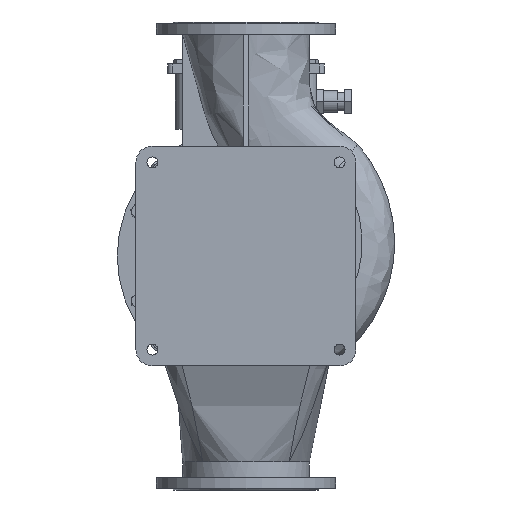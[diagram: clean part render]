
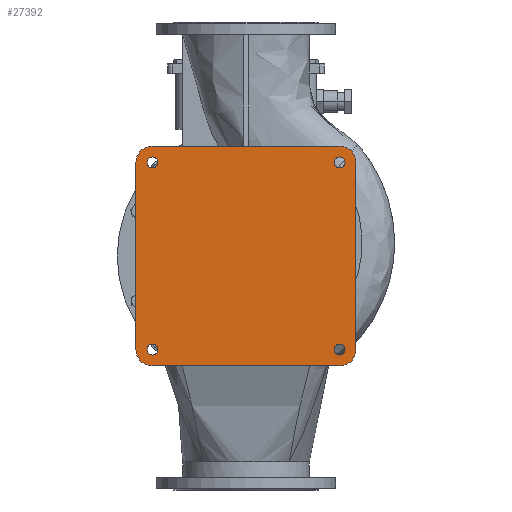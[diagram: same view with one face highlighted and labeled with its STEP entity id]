
A CAD part, front view. The second image highlights one B-rep face of the part: STEP entity #27392.
In plain terms, the highlighted planar face has unit normal (0, -1, 0).
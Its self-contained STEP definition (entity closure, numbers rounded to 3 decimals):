
#164 = CARTESIAN_POINT ( 'NONE',  ( -240., -290., 240. ) ) ;
#239 = VERTEX_POINT ( 'NONE', #65137 ) ;
#346 = VERTEX_POINT ( 'NONE', #22522 ) ;
#1585 = DIRECTION ( 'NONE',  ( 0., 0., -1. ) ) ;
#2315 = AXIS2_PLACEMENT_3D ( 'NONE', #14080, #33299, #20868 ) ;
#3403 = EDGE_CURVE ( 'NONE', #75440, #29275, #74496, .T. ) ;
#4117 = CARTESIAN_POINT ( 'NONE',  ( 240., -290., -240. ) ) ;
#4573 = CIRCLE ( 'NONE', #65923, 42. ) ;
#5020 = CIRCLE ( 'NONE', #75326, 14. ) ;
#6245 = LINE ( 'NONE', #73870, #29101 ) ;
#6494 = CARTESIAN_POINT ( 'NONE',  ( -282., -290., -240. ) ) ;
#6815 = DIRECTION ( 'NONE',  ( 0., 1., 0. ) ) ;
#8536 = FACE_BOUND ( 'NONE', #75142, .T. ) ;
#8956 = FACE_BOUND ( 'NONE', #70918, .T. ) ;
#8978 = ORIENTED_EDGE ( 'NONE', *, *, #43783, .T. ) ;
#9484 = VERTEX_POINT ( 'NONE', #74684 ) ;
#11029 = DIRECTION ( 'NONE',  ( 0., 0., 1. ) ) ;
#11075 = ORIENTED_EDGE ( 'NONE', *, *, #53578, .F. ) ;
#12382 = VECTOR ( 'NONE', #19296, 1000. ) ;
#12728 = VERTEX_POINT ( 'NONE', #48634 ) ;
#13116 = ORIENTED_EDGE ( 'NONE', *, *, #67044, .F. ) ;
#13320 = ORIENTED_EDGE ( 'NONE', *, *, #3403, .T. ) ;
#14080 = CARTESIAN_POINT ( 'NONE',  ( 240., -290., 240. ) ) ;
#14305 = ORIENTED_EDGE ( 'NONE', *, *, #23916, .T. ) ;
#14555 = DIRECTION ( 'NONE',  ( 0., 0., -1. ) ) ;
#15030 = CIRCLE ( 'NONE', #63572, 14. ) ;
#15519 = CARTESIAN_POINT ( 'NONE',  ( 282., -290., -240. ) ) ;
#16122 = DIRECTION ( 'NONE',  ( 0., 0., 1. ) ) ;
#16730 = VERTEX_POINT ( 'NONE', #46580 ) ;
#17420 = EDGE_CURVE ( 'NONE', #63994, #12728, #54484, .T. ) ;
#17826 = DIRECTION ( 'NONE',  ( 0., 0., 1. ) ) ;
#19222 = CARTESIAN_POINT ( 'NONE',  ( -282., -290., 240. ) ) ;
#19296 = DIRECTION ( 'NONE',  ( 0., 0., 1. ) ) ;
#19440 = ORIENTED_EDGE ( 'NONE', *, *, #67090, .T. ) ;
#20174 = PLANE ( 'NONE',  #62284 ) ;
#20485 = LINE ( 'NONE', #6494, #12382 ) ;
#20634 = DIRECTION ( 'NONE',  ( 0., 0., 1. ) ) ;
#20868 = DIRECTION ( 'NONE',  ( 0., 0., 1. ) ) ;
#21570 = CARTESIAN_POINT ( 'NONE',  ( -240., -290., -240. ) ) ;
#21916 = VERTEX_POINT ( 'NONE', #59098 ) ;
#22107 = EDGE_CURVE ( 'NONE', #12728, #38989, #6245, .T. ) ;
#22389 = DIRECTION ( 'NONE',  ( 0., 0., -1. ) ) ;
#22522 = CARTESIAN_POINT ( 'NONE',  ( -240., -290., 282. ) ) ;
#22847 = AXIS2_PLACEMENT_3D ( 'NONE', #164, #54607, #79027 ) ;
#23916 = EDGE_CURVE ( 'NONE', #239, #67680, #73638, .T. ) ;
#24368 = VERTEX_POINT ( 'NONE', #56104 ) ;
#25626 = DIRECTION ( 'NONE',  ( 0., 1., 0. ) ) ;
#26138 = AXIS2_PLACEMENT_3D ( 'NONE', #54478, #6815, #36876 ) ;
#26174 = FACE_BOUND ( 'NONE', #75925, .T. ) ;
#26640 = CARTESIAN_POINT ( 'NONE',  ( -240., -290., -240. ) ) ;
#26658 = CIRCLE ( 'NONE', #22847, 42. ) ;
#26974 = CARTESIAN_POINT ( 'NONE',  ( -240., -290., 226. ) ) ;
#27392 = ADVANCED_FACE ( 'NONE', ( #26174, #8956, #8536, #38592, #32195 ), #20174, .T. ) ;
#27691 = EDGE_CURVE ( 'NONE', #21916, #9484, #45749, .T. ) ;
#28321 = ORIENTED_EDGE ( 'NONE', *, *, #37253, .F. ) ;
#28371 = DIRECTION ( 'NONE',  ( 0., 1., 0. ) ) ;
#29101 = VECTOR ( 'NONE', #36677, 1000. ) ;
#29275 = VERTEX_POINT ( 'NONE', #58905 ) ;
#29973 = VERTEX_POINT ( 'NONE', #19222 ) ;
#31424 = VECTOR ( 'NONE', #69948, 1000. ) ;
#31989 = CARTESIAN_POINT ( 'NONE',  ( -240., -290., 240. ) ) ;
#32195 = FACE_OUTER_BOUND ( 'NONE', #79105, .T. ) ;
#32823 = CIRCLE ( 'NONE', #53282, 42. ) ;
#33197 = CARTESIAN_POINT ( 'NONE',  ( 282., -290., -240. ) ) ;
#33299 = DIRECTION ( 'NONE',  ( 0., 1., 0. ) ) ;
#34851 = CARTESIAN_POINT ( 'NONE',  ( 240., -290., -226. ) ) ;
#35306 = AXIS2_PLACEMENT_3D ( 'NONE', #52004, #71232, #22389 ) ;
#35418 = AXIS2_PLACEMENT_3D ( 'NONE', #4117, #46927, #16122 ) ;
#35862 = CARTESIAN_POINT ( 'NONE',  ( -240., -290., 240. ) ) ;
#36341 = DIRECTION ( 'NONE',  ( 0., 1., 0. ) ) ;
#36385 = CARTESIAN_POINT ( 'NONE',  ( 240., -290., 282. ) ) ;
#36677 = DIRECTION ( 'NONE',  ( -1., 0., 0. ) ) ;
#36876 = DIRECTION ( 'NONE',  ( 0., 0., 1. ) ) ;
#37253 = EDGE_CURVE ( 'NONE', #38989, #24368, #4573, .T. ) ;
#38363 = ORIENTED_EDGE ( 'NONE', *, *, #17420, .F. ) ;
#38382 = CARTESIAN_POINT ( 'NONE',  ( -240., -290., -254. ) ) ;
#38592 = FACE_BOUND ( 'NONE', #57905, .T. ) ;
#38989 = VERTEX_POINT ( 'NONE', #52710 ) ;
#40285 = EDGE_CURVE ( 'NONE', #45917, #63994, #70362, .T. ) ;
#41708 = ORIENTED_EDGE ( 'NONE', *, *, #27691, .T. ) ;
#43456 = CARTESIAN_POINT ( 'NONE',  ( 240., -290., 282. ) ) ;
#43783 = EDGE_CURVE ( 'NONE', #76387, #16730, #15030, .T. ) ;
#43818 = CARTESIAN_POINT ( 'NONE',  ( 240., -290., -240. ) ) ;
#44466 = ORIENTED_EDGE ( 'NONE', *, *, #40285, .F. ) ;
#44469 = VERTEX_POINT ( 'NONE', #43456 ) ;
#44595 = DIRECTION ( 'NONE',  ( 0., -1., 0. ) ) ;
#45414 = ORIENTED_EDGE ( 'NONE', *, *, #22107, .F. ) ;
#45749 = CIRCLE ( 'NONE', #2315, 14. ) ;
#45917 = VERTEX_POINT ( 'NONE', #55738 ) ;
#46153 = CARTESIAN_POINT ( 'NONE',  ( 240., -290., 240. ) ) ;
#46580 = CARTESIAN_POINT ( 'NONE',  ( -240., -290., 254. ) ) ;
#46927 = DIRECTION ( 'NONE',  ( 0., 1., 0. ) ) ;
#47334 = ORIENTED_EDGE ( 'NONE', *, *, #61317, .T. ) ;
#47538 = CIRCLE ( 'NONE', #62866, 14. ) ;
#48634 = CARTESIAN_POINT ( 'NONE',  ( 240., -290., -282. ) ) ;
#49547 = DIRECTION ( 'NONE',  ( 1., 0., 0. ) ) ;
#49588 = DIRECTION ( 'NONE',  ( 0., 1., 0. ) ) ;
#50627 = DIRECTION ( 'NONE',  ( 0., 1., 0. ) ) ;
#52004 = CARTESIAN_POINT ( 'NONE',  ( 240., -290., -240. ) ) ;
#52150 = DIRECTION ( 'NONE',  ( 0., 0., -1. ) ) ;
#52710 = CARTESIAN_POINT ( 'NONE',  ( -240., -290., -282. ) ) ;
#53282 = AXIS2_PLACEMENT_3D ( 'NONE', #46153, #70587, #52150 ) ;
#53578 = EDGE_CURVE ( 'NONE', #29973, #346, #26658, .T. ) ;
#54478 = CARTESIAN_POINT ( 'NONE',  ( 240., -290., 240. ) ) ;
#54484 = CIRCLE ( 'NONE', #35306, 42. ) ;
#54607 = DIRECTION ( 'NONE',  ( 0., 1., 0. ) ) ;
#54657 = EDGE_CURVE ( 'NONE', #29275, #75440, #5020, .T. ) ;
#54793 = LINE ( 'NONE', #36385, #69566 ) ;
#55738 = CARTESIAN_POINT ( 'NONE',  ( 282., -290., 240. ) ) ;
#56104 = CARTESIAN_POINT ( 'NONE',  ( -282., -290., -240. ) ) ;
#56579 = CARTESIAN_POINT ( 'NONE',  ( 240., -290., -240. ) ) ;
#56792 = CARTESIAN_POINT ( 'NONE',  ( -240., -290., -240. ) ) ;
#57905 = EDGE_LOOP ( 'NONE', ( #8978, #72470 ) ) ;
#58905 = CARTESIAN_POINT ( 'NONE',  ( -240., -290., -226. ) ) ;
#59098 = CARTESIAN_POINT ( 'NONE',  ( 240., -290., 226. ) ) ;
#59550 = DIRECTION ( 'NONE',  ( 0., 0., 1. ) ) ;
#61317 = EDGE_CURVE ( 'NONE', #9484, #21916, #63137, .T. ) ;
#61600 = DIRECTION ( 'NONE',  ( 0., 0., 1. ) ) ;
#61655 = EDGE_CURVE ( 'NONE', #346, #44469, #54793, .T. ) ;
#62284 = AXIS2_PLACEMENT_3D ( 'NONE', #56579, #44595, #14555 ) ;
#62866 = AXIS2_PLACEMENT_3D ( 'NONE', #35862, #78654, #11029 ) ;
#63137 = CIRCLE ( 'NONE', #26138, 14. ) ;
#63572 = AXIS2_PLACEMENT_3D ( 'NONE', #31989, #49588, #61600 ) ;
#63994 = VERTEX_POINT ( 'NONE', #33197 ) ;
#64468 = EDGE_CURVE ( 'NONE', #24368, #29973, #20485, .T. ) ;
#65137 = CARTESIAN_POINT ( 'NONE',  ( 240., -290., -254. ) ) ;
#65923 = AXIS2_PLACEMENT_3D ( 'NONE', #56792, #25626, #1585 ) ;
#67044 = EDGE_CURVE ( 'NONE', #44469, #45917, #32823, .T. ) ;
#67090 = EDGE_CURVE ( 'NONE', #67680, #239, #69898, .T. ) ;
#67680 = VERTEX_POINT ( 'NONE', #34851 ) ;
#67700 = ORIENTED_EDGE ( 'NONE', *, *, #54657, .T. ) ;
#68531 = AXIS2_PLACEMENT_3D ( 'NONE', #43818, #36341, #59550 ) ;
#69566 = VECTOR ( 'NONE', #49547, 1000. ) ;
#69898 = CIRCLE ( 'NONE', #35418, 14. ) ;
#69948 = DIRECTION ( 'NONE',  ( 0., 0., -1. ) ) ;
#70362 = LINE ( 'NONE', #15519, #31424 ) ;
#70587 = DIRECTION ( 'NONE',  ( 0., 1., 0. ) ) ;
#70918 = EDGE_LOOP ( 'NONE', ( #41708, #47334 ) ) ;
#71232 = DIRECTION ( 'NONE',  ( 0., 1., 0. ) ) ;
#72470 = ORIENTED_EDGE ( 'NONE', *, *, #77219, .T. ) ;
#73616 = ORIENTED_EDGE ( 'NONE', *, *, #61655, .F. ) ;
#73638 = CIRCLE ( 'NONE', #68531, 14. ) ;
#73870 = CARTESIAN_POINT ( 'NONE',  ( -240., -290., -282. ) ) ;
#74496 = CIRCLE ( 'NONE', #77075, 14. ) ;
#74684 = CARTESIAN_POINT ( 'NONE',  ( 240., -290., 254. ) ) ;
#75142 = EDGE_LOOP ( 'NONE', ( #14305, #19440 ) ) ;
#75326 = AXIS2_PLACEMENT_3D ( 'NONE', #21570, #28371, #17826 ) ;
#75350 = ORIENTED_EDGE ( 'NONE', *, *, #64468, .F. ) ;
#75440 = VERTEX_POINT ( 'NONE', #38382 ) ;
#75925 = EDGE_LOOP ( 'NONE', ( #13320, #67700 ) ) ;
#76387 = VERTEX_POINT ( 'NONE', #26974 ) ;
#77075 = AXIS2_PLACEMENT_3D ( 'NONE', #26640, #50627, #20634 ) ;
#77219 = EDGE_CURVE ( 'NONE', #16730, #76387, #47538, .T. ) ;
#78654 = DIRECTION ( 'NONE',  ( 0., 1., 0. ) ) ;
#79027 = DIRECTION ( 'NONE',  ( 0., 0., -1. ) ) ;
#79105 = EDGE_LOOP ( 'NONE', ( #38363, #44466, #13116, #73616, #11075, #75350, #28321, #45414 ) ) ;
